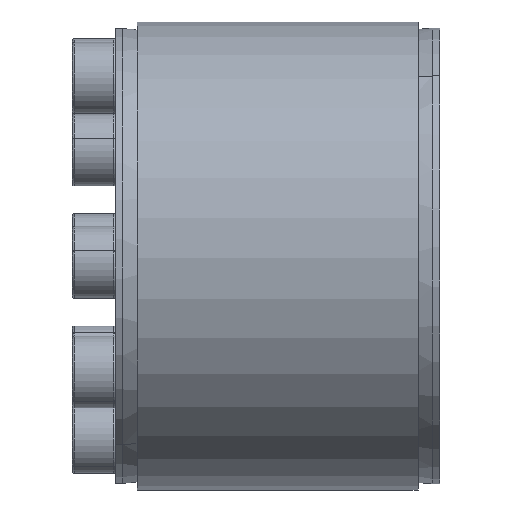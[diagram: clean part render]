
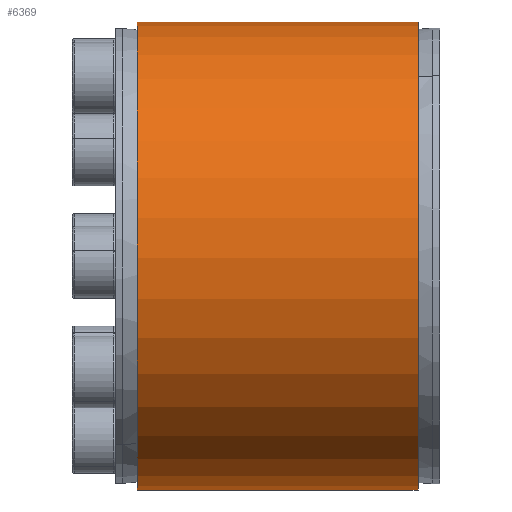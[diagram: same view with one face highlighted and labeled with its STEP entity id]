
A CAD part, front view. The second image highlights one B-rep face of the part: STEP entity #6369.
In plain terms, the highlighted cylindrical face has radius 32.5 mm (diameter 65 mm), a partial arc.
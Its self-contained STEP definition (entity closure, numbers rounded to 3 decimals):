
#582 = CARTESIAN_POINT ( 'NONE',  ( -36.815, -0.232, 32.419 ) ) ;
#730 = LINE ( 'NONE', #6163, #3775 ) ;
#988 = CARTESIAN_POINT ( 'NONE',  ( -36.815, 0.368, -0.076 ) ) ;
#1709 = DIRECTION ( 'NONE',  ( 0., 0., -1. ) ) ;
#1818 = EDGE_CURVE ( 'NONE', #2642, #6349, #13034, .T. ) ;
#1958 = VERTEX_POINT ( 'NONE', #9325 ) ;
#2180 = CARTESIAN_POINT ( 'NONE',  ( -36.815, 0.368, -32.576 ) ) ;
#2642 = VERTEX_POINT ( 'NONE', #2180 ) ;
#3018 = DIRECTION ( 'NONE',  ( -1., 0., 0. ) ) ;
#3587 = CIRCLE ( 'NONE', #11109, 32.5 ) ;
#3775 = VECTOR ( 'NONE', #3018, 1000. ) ;
#4207 = AXIS2_PLACEMENT_3D ( 'NONE', #988, #13032, #13082 ) ;
#4828 = VERTEX_POINT ( 'NONE', #11247 ) ;
#5361 = EDGE_LOOP ( 'NONE', ( #9349, #12588, #12260, #10696 ) ) ;
#5454 = CARTESIAN_POINT ( 'NONE',  ( 2.185, 0.368, -0.076 ) ) ;
#5463 = AXIS2_PLACEMENT_3D ( 'NONE', #12723, #6618, #1709 ) ;
#6163 = CARTESIAN_POINT ( 'NONE',  ( -36.815, -0.232, 32.419 ) ) ;
#6349 = VERTEX_POINT ( 'NONE', #582 ) ;
#6369 = ADVANCED_FACE ( 'NONE', ( #7945 ), #12712, .T. ) ;
#6549 = DIRECTION ( 'NONE',  ( 0., 0., -1. ) ) ;
#6589 = EDGE_CURVE ( 'NONE', #4828, #2642, #9517, .T. ) ;
#6618 = DIRECTION ( 'NONE',  ( -1., 0., 0. ) ) ;
#6628 = EDGE_CURVE ( 'NONE', #1958, #6349, #730, .T. ) ;
#7613 = VECTOR ( 'NONE', #8279, 1000. ) ;
#7945 = FACE_OUTER_BOUND ( 'NONE', #5361, .T. ) ;
#8279 = DIRECTION ( 'NONE',  ( -1., 0., 0. ) ) ;
#9129 = CARTESIAN_POINT ( 'NONE',  ( -36.815, 0.368, -32.576 ) ) ;
#9325 = CARTESIAN_POINT ( 'NONE',  ( 2.185, -0.232, 32.419 ) ) ;
#9349 = ORIENTED_EDGE ( 'NONE', *, *, #6589, .F. ) ;
#9517 = LINE ( 'NONE', #9129, #7613 ) ;
#10696 = ORIENTED_EDGE ( 'NONE', *, *, #1818, .F. ) ;
#11109 = AXIS2_PLACEMENT_3D ( 'NONE', #5454, #12626, #6549 ) ;
#11247 = CARTESIAN_POINT ( 'NONE',  ( 2.185, 0.368, -32.576 ) ) ;
#11819 = EDGE_CURVE ( 'NONE', #4828, #1958, #3587, .T. ) ;
#12260 = ORIENTED_EDGE ( 'NONE', *, *, #6628, .T. ) ;
#12588 = ORIENTED_EDGE ( 'NONE', *, *, #11819, .T. ) ;
#12626 = DIRECTION ( 'NONE',  ( -1., 0., 0. ) ) ;
#12712 = CYLINDRICAL_SURFACE ( 'NONE', #5463, 32.5 ) ;
#12723 = CARTESIAN_POINT ( 'NONE',  ( -36.815, 0.368, -0.076 ) ) ;
#13032 = DIRECTION ( 'NONE',  ( -1., 0., 0. ) ) ;
#13034 = CIRCLE ( 'NONE', #4207, 32.5 ) ;
#13082 = DIRECTION ( 'NONE',  ( 0., 0., -1. ) ) ;
